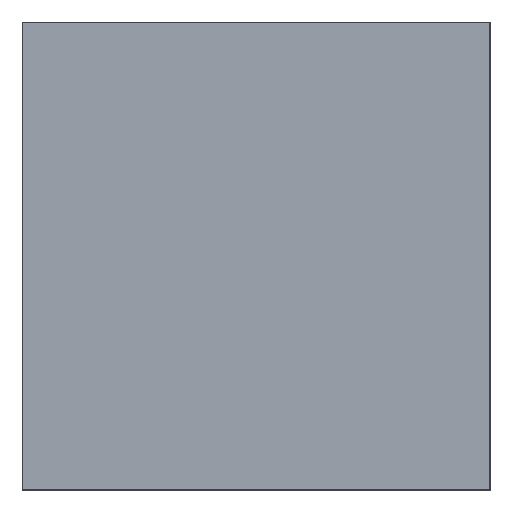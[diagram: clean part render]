
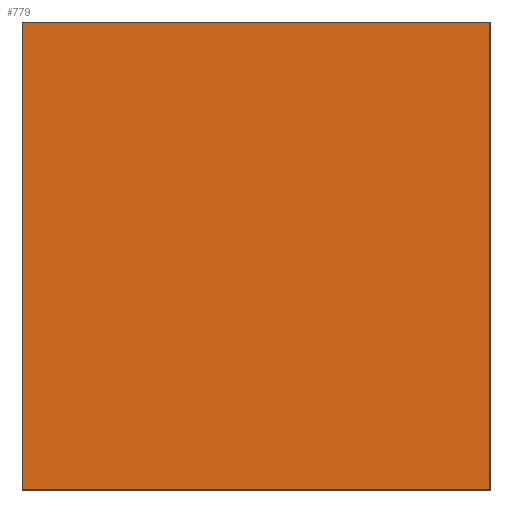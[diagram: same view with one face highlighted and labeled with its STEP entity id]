
A CAD part, left-side view. The second image highlights one B-rep face of the part: STEP entity #779.
In plain terms, the highlighted planar face has unit normal (-1, 0, 0).
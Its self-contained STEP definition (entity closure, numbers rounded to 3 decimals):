
#37=PLANE('',#852);
#76=LINE('',#1169,#156);
#79=LINE('',#1184,#159);
#82=LINE('',#1188,#162);
#88=LINE('',#1198,#168);
#156=VECTOR('',#941,999.);
#159=VECTOR('',#958,999.);
#162=VECTOR('',#963,998.);
#168=VECTOR('',#977,998.);
#256=FACE_OUTER_BOUND('',#307,.T.);
#307=EDGE_LOOP('',(#602,#603,#604,#605));
#392=VERTEX_POINT('',#1158);
#395=VERTEX_POINT('',#1165);
#399=VERTEX_POINT('',#1177);
#401=VERTEX_POINT('',#1182);
#467=EDGE_CURVE('',#392,#395,#76,.T.);
#474=EDGE_CURVE('',#401,#399,#79,.T.);
#477=EDGE_CURVE('',#399,#392,#82,.T.);
#483=EDGE_CURVE('',#401,#395,#88,.T.);
#602=ORIENTED_EDGE('',*,*,#467,.F.);
#603=ORIENTED_EDGE('',*,*,#477,.F.);
#604=ORIENTED_EDGE('',*,*,#474,.F.);
#605=ORIENTED_EDGE('',*,*,#483,.T.);
#779=ADVANCED_FACE('',(#256),#37,.T.);
#852=AXIS2_PLACEMENT_3D('',#1197,#975,#976);
#941=DIRECTION('',(0.,-1.,0.));
#958=DIRECTION('',(0.,1.,0.));
#963=DIRECTION('',(0.,0.,1.));
#975=DIRECTION('center_axis',(-1.,0.,0.));
#976=DIRECTION('ref_axis',(0.,0.,1.));
#977=DIRECTION('',(0.,0.,1.));
#1158=CARTESIAN_POINT('',(0.,999.,-1.));
#1165=CARTESIAN_POINT('',(0.,0.,-1.));
#1169=CARTESIAN_POINT('',(0.,0.,-1.));
#1177=CARTESIAN_POINT('',(0.,999.,-999.));
#1182=CARTESIAN_POINT('',(0.,0.,-999.));
#1184=CARTESIAN_POINT('',(0.,0.,-999.));
#1188=CARTESIAN_POINT('',(0.,999.,-750.));
#1197=CARTESIAN_POINT('Origin',(0.,0.,-1000.));
#1198=CARTESIAN_POINT('',(0.,0.,-1000.));
